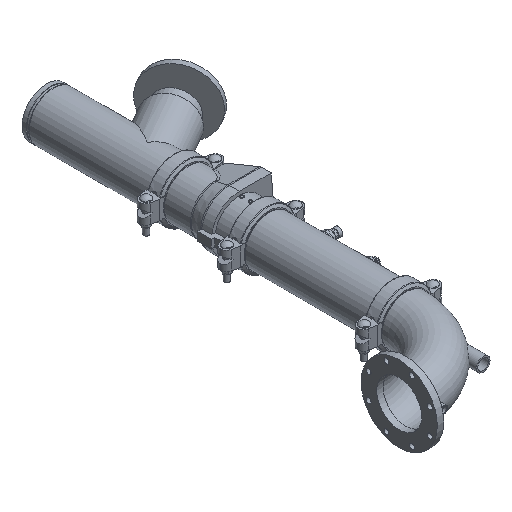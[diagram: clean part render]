
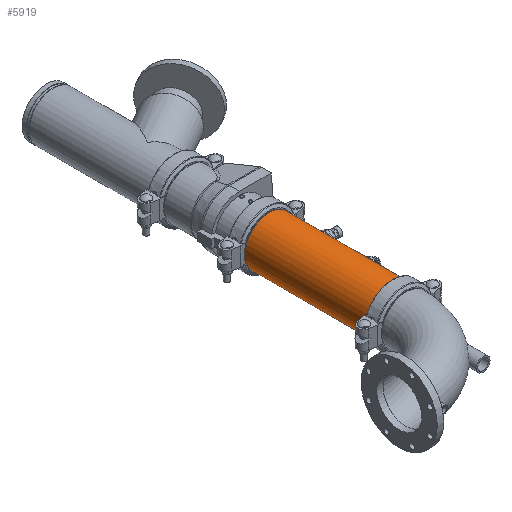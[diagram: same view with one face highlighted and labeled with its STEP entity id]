
A CAD part, isometric view. The second image highlights one B-rep face of the part: STEP entity #5919.
In plain terms, the highlighted cylindrical face has radius 109.537 mm (diameter 219.075 mm), a full revolution.
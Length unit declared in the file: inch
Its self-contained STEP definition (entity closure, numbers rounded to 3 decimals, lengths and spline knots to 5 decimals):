
#172=LINE('',#9010,#597);
#597=VECTOR('',#7161,4.3125);
#1022=CYLINDRICAL_SURFACE('',#6426,4.3125);
#1220=FACE_OUTER_BOUND('',#1550,.T.);
#1550=EDGE_LOOP('',(#3723,#3724,#3725,#3726,#3727,#3728));
#1957=CIRCLE('',#6424,4.3125);
#1958=CIRCLE('',#6425,4.3125);
#1959=CIRCLE('',#6427,4.3125);
#1960=CIRCLE('',#6428,4.3125);
#2299=VERTEX_POINT('',#9001);
#2300=VERTEX_POINT('',#9002);
#2301=VERTEX_POINT('',#9006);
#2302=VERTEX_POINT('',#9007);
#2872=EDGE_CURVE('',#2299,#2300,#1957,.T.);
#2873=EDGE_CURVE('',#2300,#2299,#1958,.T.);
#2874=EDGE_CURVE('',#2301,#2302,#1959,.T.);
#2875=EDGE_CURVE('',#2302,#2301,#1960,.T.);
#2876=EDGE_CURVE('',#2302,#2300,#172,.T.);
#3723=ORIENTED_EDGE('',*,*,#2874,.F.);
#3724=ORIENTED_EDGE('',*,*,#2875,.F.);
#3725=ORIENTED_EDGE('',*,*,#2876,.T.);
#3726=ORIENTED_EDGE('',*,*,#2873,.T.);
#3727=ORIENTED_EDGE('',*,*,#2872,.T.);
#3728=ORIENTED_EDGE('',*,*,#2876,.F.);
#5919=ADVANCED_FACE('',(#1220),#1022,.T.);
#6424=AXIS2_PLACEMENT_3D('',#9003,#7151,#7152);
#6425=AXIS2_PLACEMENT_3D('',#9004,#7153,#7154);
#6426=AXIS2_PLACEMENT_3D('',#9005,#7155,#7156);
#6427=AXIS2_PLACEMENT_3D('',#9008,#7157,#7158);
#6428=AXIS2_PLACEMENT_3D('',#9009,#7159,#7160);
#7151=DIRECTION('center_axis',(1.,0.,0.));
#7152=DIRECTION('ref_axis',(0.,0.,-1.));
#7153=DIRECTION('center_axis',(1.,0.,0.));
#7154=DIRECTION('ref_axis',(0.,0.,-1.));
#7155=DIRECTION('center_axis',(1.,0.,0.));
#7156=DIRECTION('ref_axis',(0.,1.,0.));
#7157=DIRECTION('center_axis',(1.,0.,0.));
#7158=DIRECTION('ref_axis',(0.,0.,-1.));
#7159=DIRECTION('center_axis',(1.,0.,0.));
#7160=DIRECTION('ref_axis',(0.,0.,-1.));
#7161=DIRECTION('',(-1.,0.,0.));
#9001=CARTESIAN_POINT('',(-10.796,4.3125,0.));
#9002=CARTESIAN_POINT('',(-10.796,-4.3125,0.));
#9003=CARTESIAN_POINT('Origin',(-10.796,0.,0.));
#9004=CARTESIAN_POINT('Origin',(-10.796,0.,0.));
#9005=CARTESIAN_POINT('Origin',(0.,0.,0.));
#9006=CARTESIAN_POINT('',(10.796,4.3125,0.));
#9007=CARTESIAN_POINT('',(10.796,-4.3125,0.));
#9008=CARTESIAN_POINT('Origin',(10.796,0.,0.));
#9009=CARTESIAN_POINT('Origin',(10.796,0.,0.));
#9010=CARTESIAN_POINT('',(0.,-4.3125,0.));
